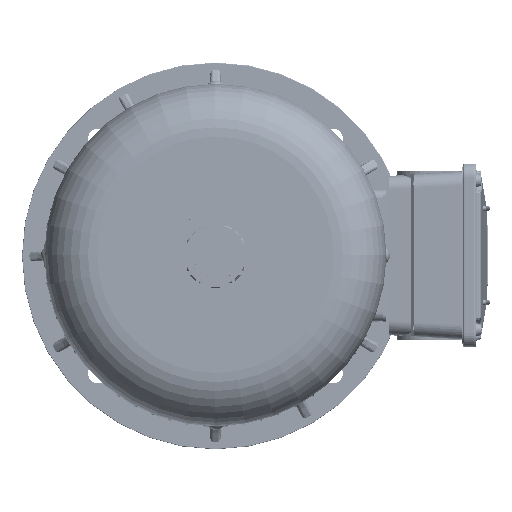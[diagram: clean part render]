
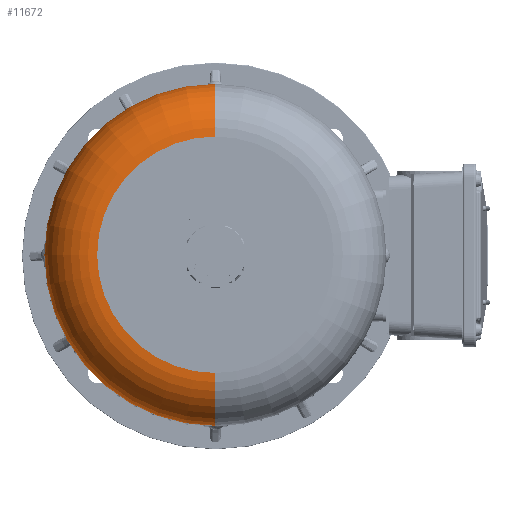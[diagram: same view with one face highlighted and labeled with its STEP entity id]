
A CAD part, top view. The second image highlights one B-rep face of the part: STEP entity #11672.
In plain terms, the highlighted toroidal (fillet/blend) face has major radius 107 mm and minor radius 47.7 mm.
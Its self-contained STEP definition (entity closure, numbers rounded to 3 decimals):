
#2117 = CARTESIAN_POINT ( 'NONE',  ( 0., 0., 0. ) ) ;
#7510 = CARTESIAN_POINT ( 'NONE',  ( 0., 47.7, -154.7 ) ) ;
#8130 = FACE_OUTER_BOUND ( 'NONE', #56308, .T. ) ;
#8576 = CARTESIAN_POINT ( 'NONE',  ( 0., 47.7, 0. ) ) ;
#11672 = ADVANCED_FACE ( 'NONE', ( #8130 ), #153504, .T. ) ;
#17235 = CARTESIAN_POINT ( 'NONE',  ( 0., 47.7, 0. ) ) ;
#20444 = DIRECTION ( 'NONE',  ( 0., 0., 1. ) ) ;
#26887 = DIRECTION ( 'NONE',  ( 0., 0., 1. ) ) ;
#35613 = DIRECTION ( 'NONE',  ( 0., 0., 1. ) ) ;
#48640 = AXIS2_PLACEMENT_3D ( 'NONE', #17235, #144676, #35613 ) ;
#50927 = CIRCLE ( 'NONE', #235864, 47.7 ) ;
#56308 = EDGE_LOOP ( 'NONE', ( #162916, #192992, #63738, #117268 ) ) ;
#59010 = EDGE_CURVE ( 'NONE', #176767, #222597, #192442, .T. ) ;
#63738 = ORIENTED_EDGE ( 'NONE', *, *, #59010, .F. ) ;
#75821 = EDGE_CURVE ( 'NONE', #80279, #176767, #50927, .T. ) ;
#79393 = DIRECTION ( 'NONE',  ( 1., 0., 0. ) ) ;
#80279 = VERTEX_POINT ( 'NONE', #215415 ) ;
#82833 = CIRCLE ( 'NONE', #219094, 107. ) ;
#89654 = EDGE_CURVE ( 'NONE', #80279, #129900, #82833, .T. ) ;
#99363 = DIRECTION ( 'NONE',  ( 0., 1., 0. ) ) ;
#106779 = CARTESIAN_POINT ( 'NONE',  ( 0., 47.7, 107. ) ) ;
#108200 = AXIS2_PLACEMENT_3D ( 'NONE', #8576, #99363, #26887 ) ;
#117268 = ORIENTED_EDGE ( 'NONE', *, *, #75821, .F. ) ;
#118678 = EDGE_CURVE ( 'NONE', #129900, #222597, #163894, .T. ) ;
#125058 = DIRECTION ( 'NONE',  ( 0., 0., 1. ) ) ;
#129544 = DIRECTION ( 'NONE',  ( 0., 1., 0. ) ) ;
#129900 = VERTEX_POINT ( 'NONE', #133775 ) ;
#132489 = AXIS2_PLACEMENT_3D ( 'NONE', #188444, #79393, #206780 ) ;
#133775 = CARTESIAN_POINT ( 'NONE',  ( 0., 0., -107. ) ) ;
#144676 = DIRECTION ( 'NONE',  ( 0., 1., 0. ) ) ;
#153504 = TOROIDAL_SURFACE ( 'NONE', #108200, 107., 47.7 ) ;
#162916 = ORIENTED_EDGE ( 'NONE', *, *, #89654, .T. ) ;
#163894 = CIRCLE ( 'NONE', #132489, 47.7 ) ;
#176767 = VERTEX_POINT ( 'NONE', #205500 ) ;
#188444 = CARTESIAN_POINT ( 'NONE',  ( 0., 47.7, -107. ) ) ;
#192442 = CIRCLE ( 'NONE', #48640, 154.7 ) ;
#192992 = ORIENTED_EDGE ( 'NONE', *, *, #118678, .T. ) ;
#205500 = CARTESIAN_POINT ( 'NONE',  ( 0., 47.7, 154.7 ) ) ;
#206780 = DIRECTION ( 'NONE',  ( 0., 0., -1. ) ) ;
#215415 = CARTESIAN_POINT ( 'NONE',  ( 0., 0., 107. ) ) ;
#219094 = AXIS2_PLACEMENT_3D ( 'NONE', #2117, #129544, #20444 ) ;
#222597 = VERTEX_POINT ( 'NONE', #7510 ) ;
#234265 = DIRECTION ( 'NONE',  ( -1., 0., 0. ) ) ;
#235864 = AXIS2_PLACEMENT_3D ( 'NONE', #106779, #234265, #125058 ) ;
